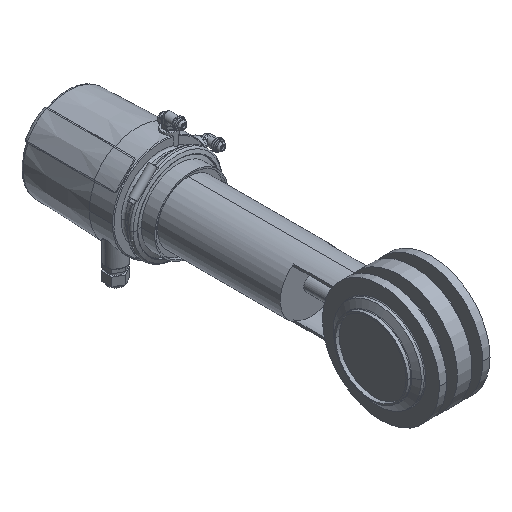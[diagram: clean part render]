
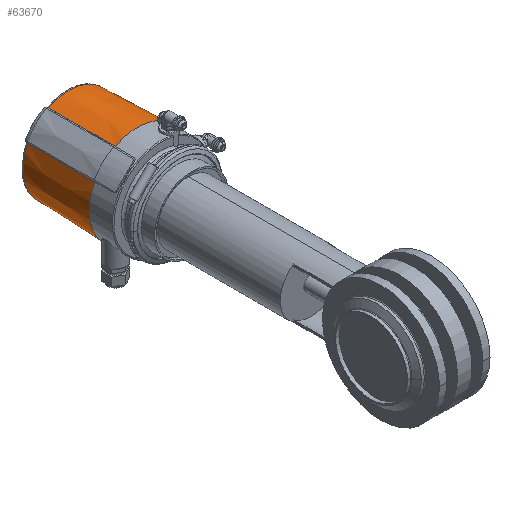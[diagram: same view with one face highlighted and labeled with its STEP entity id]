
A CAD part, isometric view. The second image highlights one B-rep face of the part: STEP entity #63670.
In plain terms, the highlighted conical face has half-angle 2 degrees and reference radius 66.69 mm.
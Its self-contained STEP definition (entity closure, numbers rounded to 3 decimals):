
#62890=CARTESIAN_POINT('',(0.,71.37,0.));
#62900=DIRECTION('',(0.,-1.,0.));
#62910=DIRECTION('',(-1.,-0.,0.));
#62920=AXIS2_PLACEMENT_3D('',#62890,#62900,#62910);
#62930=CONICAL_SURFACE('',#62920,66.69,0.035);
#62940=CARTESIAN_POINT('',(-31.074,62.5,
59.358));
#62950=CARTESIAN_POINT('',(-30.972,66.459,
59.256));
#62960=CARTESIAN_POINT('',(-30.869,70.417,
59.153));
#62970=CARTESIAN_POINT('',(-30.767,74.376,
59.051));
#62980=CARTESIAN_POINT('',(-30.664,78.335,
58.948));
#62990=CARTESIAN_POINT('',(-30.562,82.294,
58.846));
#63000=CARTESIAN_POINT('',(-30.459,86.252,
58.743));
#63010=CARTESIAN_POINT('',(-30.254,94.17,
58.538));
#63020=CARTESIAN_POINT('',(-30.049,102.087,
58.333));
#63030=CARTESIAN_POINT('',(-29.843,110.004,
58.128));
#63040=CARTESIAN_POINT('',(-29.638,117.922,
57.922));
#63050=CARTESIAN_POINT('',(-29.433,125.839,
57.717));
#63060=CARTESIAN_POINT('',(-29.227,133.757,
57.511));
#63070=CARTESIAN_POINT('',(-29.124,137.715,
57.408));
#63080=CARTESIAN_POINT('',(-29.021,141.674,
57.306));
#63090=CARTESIAN_POINT('',(-28.918,145.633,
57.203));
#63100=CARTESIAN_POINT('',(-28.816,149.591,
57.1));
#63110=CARTESIAN_POINT('',(-28.713,153.55,
56.997));
#63120=CARTESIAN_POINT('',(-28.61,157.509,
56.894));
#63130=B_SPLINE_CURVE_WITH_KNOTS('',3,(#62940,#62950,#62960,#62970,
#62980,#62990,#63000,#63010,#63020,#63030,#63040,#63050,#63060,#63070,
#63080,#63090,#63100,#63110,#63120),.UNSPECIFIED.,.F.,.F.,(4,3,3,3,3,3,4
),(0.,11.884,23.768,47.536,
71.305,83.189,95.073),.UNSPECIFIED.);
#63140=CARTESIAN_POINT('',(-31.074,62.5,
59.358));
#63150=VERTEX_POINT('',#63140);
#63160=CARTESIAN_POINT('',(-28.61,157.509,
56.894));
#63170=VERTEX_POINT('',#63160);
#63180=EDGE_CURVE('',#63150,#63170,#63130,.T.);
#63190=ORIENTED_EDGE('',*,*,#63180,.F.);
#63200=CARTESIAN_POINT('',(0.,157.509,0.));
#63210=DIRECTION('',(0.,1.,0.));
#63220=DIRECTION('',(1.,0.,0.));
#63230=AXIS2_PLACEMENT_3D('',#63200,#63210,#63220);
#63240=CIRCLE('',#63230,63.682);
#63250=CARTESIAN_POINT('',(-56.894,157.509,
28.61));
#63260=VERTEX_POINT('',#63250);
#63270=EDGE_CURVE('',#63170,#63260,#63240,.T.);
#63280=ORIENTED_EDGE('',*,*,#63270,.F.);
#63290=CARTESIAN_POINT('',(-56.894,157.509,
28.61));
#63300=CARTESIAN_POINT('',(-56.997,153.55,
28.713));
#63310=CARTESIAN_POINT('',(-57.1,149.591,
28.816));
#63320=CARTESIAN_POINT('',(-57.203,145.633,
28.918));
#63330=CARTESIAN_POINT('',(-57.306,141.674,
29.021));
#63340=CARTESIAN_POINT('',(-57.408,137.715,
29.124));
#63350=CARTESIAN_POINT('',(-57.511,133.757,
29.227));
#63360=CARTESIAN_POINT('',(-57.717,125.839,
29.433));
#63370=CARTESIAN_POINT('',(-57.922,117.922,
29.638));
#63380=CARTESIAN_POINT('',(-58.128,110.004,
29.843));
#63390=CARTESIAN_POINT('',(-58.333,102.087,
30.049));
#63400=CARTESIAN_POINT('',(-58.538,94.17,
30.254));
#63410=CARTESIAN_POINT('',(-58.743,86.252,
30.459));
#63420=CARTESIAN_POINT('',(-58.948,78.335,
30.664));
#63430=CARTESIAN_POINT('',(-59.153,70.417,
30.869));
#63440=CARTESIAN_POINT('',(-59.358,62.5,
31.074));
#63450=B_SPLINE_CURVE_WITH_KNOTS('',3,(#63290,#63300,#63310,#63320,
#63330,#63340,#63350,#63360,#63370,#63380,#63390,#63400,#63410,#63420,
#63430,#63440),.UNSPECIFIED.,.F.,.F.,(4,3,3,3,3,4),(0.,11.884,
23.768,47.536,71.305,95.073),
.UNSPECIFIED.);
#63460=CARTESIAN_POINT('',(-59.358,62.5,
31.074));
#63470=VERTEX_POINT('',#63460);
#63480=EDGE_CURVE('',#63260,#63470,#63450,.T.);
#63490=ORIENTED_EDGE('',*,*,#63480,.F.);
#63500=CARTESIAN_POINT('',(0.,62.5,0.));
#63510=DIRECTION('',(0.,-1.,0.));
#63520=DIRECTION('',(-1.,0.,0.));
#63530=AXIS2_PLACEMENT_3D('',#63500,#63510,#63520);
#63540=CIRCLE('',#63530,67.);
#63550=CARTESIAN_POINT('',(-67.,62.5,
0.));
#63560=VERTEX_POINT('',#63550);
#63570=EDGE_CURVE('',#63470,#63560,#63540,.T.);
#63580=ORIENTED_EDGE('',*,*,#63570,.F.);
#63590=CARTESIAN_POINT('',(67.,62.5,0.));
#63600=VERTEX_POINT('',#63590);
#63610=EDGE_CURVE('',#63560,#63600,#63540,.T.);
#63620=ORIENTED_EDGE('',*,*,#63610,.F.);
#63630=EDGE_CURVE('',#63600,#63150,#63540,.T.);
#63640=ORIENTED_EDGE('',*,*,#63630,.F.);
#63650=EDGE_LOOP('',(#63640,#63620,#63580,#63490,#63280,#63190));
#63660=FACE_OUTER_BOUND('',#63650,.T.);
#63670=ADVANCED_FACE('',(#63660),#62930,.T.);
